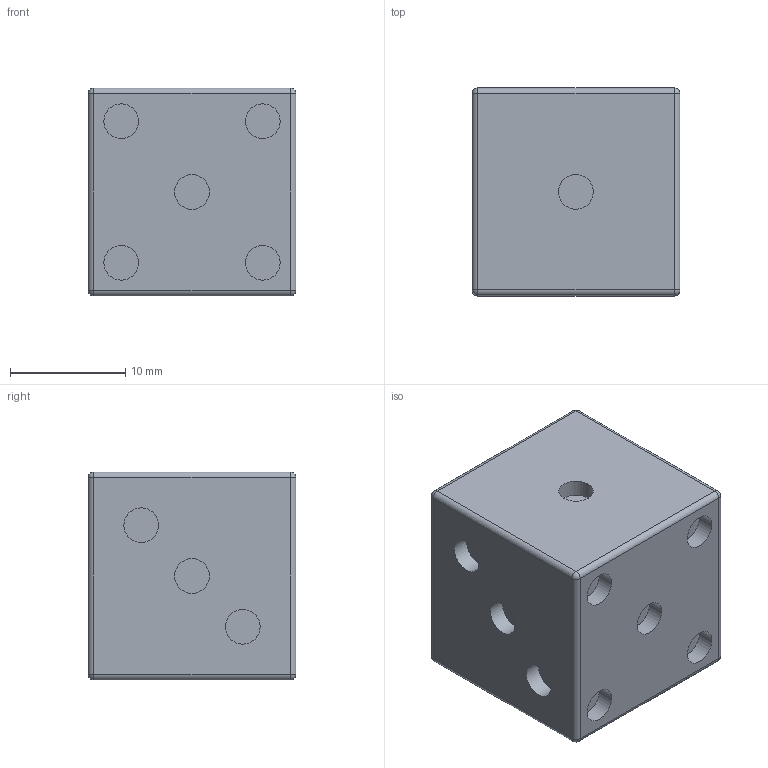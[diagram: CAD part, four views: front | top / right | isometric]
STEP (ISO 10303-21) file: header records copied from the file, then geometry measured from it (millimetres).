
FILE_DESCRIPTION(('FreeCAD Model'),'2;1');
FILE_NAME('Open CASCADE Shape Model','2026-10-08T15:57:01',('Author'),( ''),'Open CASCADE STEP processor 7.8','FreeCAD','Unknown');
FILE_SCHEMA(('AUTOMOTIVE_DESIGN { 1 0 10303 214 1 1 1 1 }'));
Length unit declared in the file: millimetre
Products named in the file (3): Unnamed; Cut004; Extrude005
Assembly tree (2 placements, depth 2):
  Unnamed
    Cut004
    Extrude005
Bounding box: 18 x 18 x 18 mm (x, y, z)
Volume: 5659.8 mm3; surface area: 2264.9 mm2
Topology: 5 solids, 5 shells, 72 faces, 119 edges, 66 vertices
Faces by surface type: cylinder 33, plane 31, sphere 8
Full cylindrical faces by diameter (mm): 3 x15, 3.5 x6
Entity records: 1696 total; most frequent: DIRECTION 327, CARTESIAN_POINT 252, ORIENTED_EDGE 222, AXIS2_PLACEMENT_3D 141, EDGE_CURVE 111, FACE_BOUND 89, EDGE_LOOP 89, ADVANCED_FACE 72
